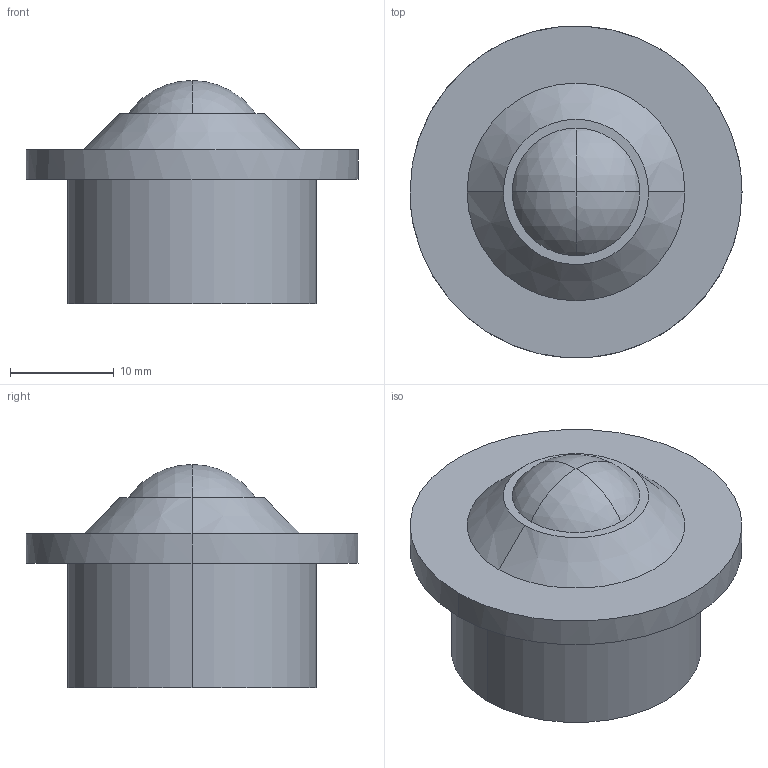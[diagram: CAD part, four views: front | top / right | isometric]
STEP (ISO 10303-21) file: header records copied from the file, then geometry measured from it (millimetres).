
FILE_DESCRIPTION(('CATIA V5 STEP Exchange'),'2;1');
FILE_NAME('C:\Users\Utente\Desktop\IO LAVORO\3D X SITO CF\X 3D SITO CF 27-09-2020\KU15B\KU15B.stp','2020-10-27T20:04:07+00:00',('none'),('none'),'CATIA Version 5 Release 20 GA (IN-10)','CATIA V5 STEP AP203','none');
FILE_SCHEMA(('CONFIG_CONTROL_DESIGN'));
Length unit declared in the file: millimetre
Products named in the file (1): KU15B
Bounding box: 32 x 32 x 21.5 mm (x, y, z)
Volume: 8740.6 mm3; surface area: 4018.8 mm2
Topology: 2 solids, 2 shells, 26 faces, 62 edges, 27 vertices
Faces by surface type: sphere 16, plane 4, cylinder 4, cone 2
Entity records: 753 total; most frequent: CARTESIAN_POINT 225, ORIENTED_EDGE 92, DIRECTION 91, AXIS2_PLACEMENT_3D 60, EDGE_CURVE 46, CIRCLE 33, EDGE_LOOP 29, VERTEX_POINT 27
